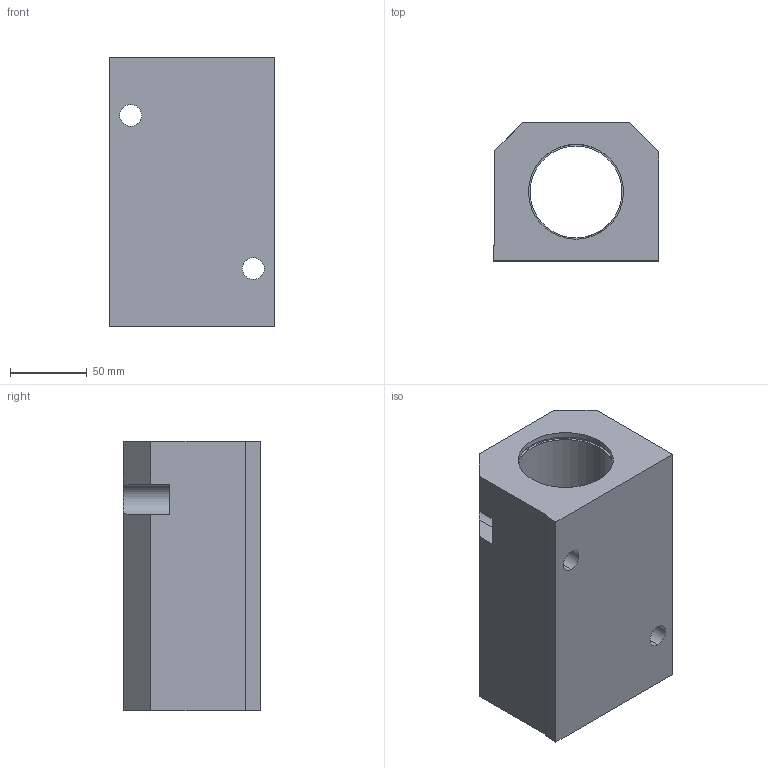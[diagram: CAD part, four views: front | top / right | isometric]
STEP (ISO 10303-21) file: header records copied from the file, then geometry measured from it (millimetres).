
FILE_DESCRIPTION (( 'STEP AP214' ), '1' );
FILE_NAME ('KTG85-40.step', '2020-03-04T13:25:59', ( '' ), ( '' ), 'SwSTEP 2.0', 'SolidWorks 2019', '' );
FILE_SCHEMA (( 'AUTOMOTIVE_DESIGN' ));
Length unit declared in the file: millimetre
Products named in the file (1): KTG85-40
Bounding box: 108 x 90 x 176 mm (x, y, z)
Volume: 1065823.9 mm3; surface area: 121679.1 mm2
Topology: 1 solids, 1 shells, 50 faces, 122 edges, 80 vertices
Faces by surface type: cylinder 24, plane 24, cone 2
Entity records: 1650 total; most frequent: CARTESIAN_POINT 323, DIRECTION 264, ORIENTED_EDGE 244, EDGE_CURVE 122, AXIS2_PLACEMENT_3D 97, VERTEX_POINT 80, VECTOR 70, LINE 70
